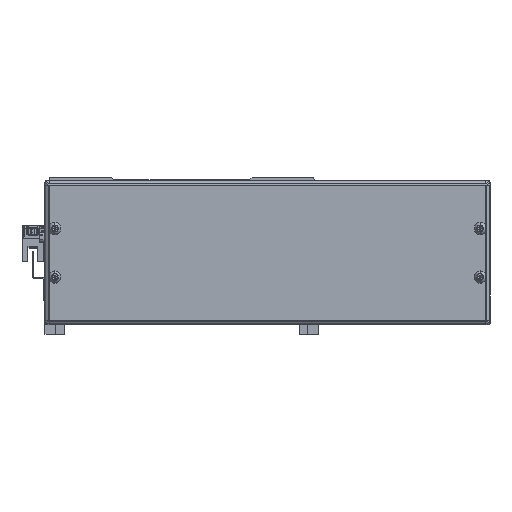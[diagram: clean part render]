
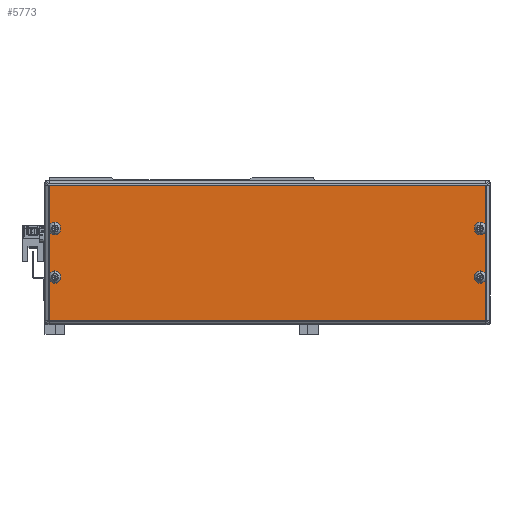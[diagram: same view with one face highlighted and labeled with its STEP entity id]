
A CAD part, front view. The second image highlights one B-rep face of the part: STEP entity #5773.
In plain terms, the highlighted planar face has unit normal (0, -1, 0) as drawn and (0, 0, -1) by its records, which use the part's own axes.
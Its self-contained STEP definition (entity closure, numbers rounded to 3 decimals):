
#380 = CIRCLE ( 'NONE', #33906, 2.25 ) ;
#1739 = VERTEX_POINT ( 'NONE', #7139 ) ;
#1765 = CARTESIAN_POINT ( 'NONE',  ( -89.983, 0.706, -242.5 ) ) ;
#1961 = LINE ( 'NONE', #22058, #12394 ) ;
#2111 = VERTEX_POINT ( 'NONE', #39153 ) ;
#2349 = CARTESIAN_POINT ( 'NONE',  ( -87.733, 0.706, -242.5 ) ) ;
#2562 = CARTESIAN_POINT ( 'NONE',  ( 152.617, 5.246, -242.5 ) ) ;
#2741 = DIRECTION ( 'NONE',  ( 0., 0., -1. ) ) ;
#3153 = ORIENTED_EDGE ( 'NONE', *, *, #8182, .F. ) ;
#3366 = DIRECTION ( 'NONE',  ( 0., 0., -1. ) ) ;
#3395 = VERTEX_POINT ( 'NONE', #26047 ) ;
#3659 = AXIS2_PLACEMENT_3D ( 'NONE', #2349, #36245, #32802 ) ;
#3963 = DIRECTION ( 'NONE',  ( -1., 0., 0. ) ) ;
#4066 = ORIENTED_EDGE ( 'NONE', *, *, #9229, .F. ) ;
#4409 = CIRCLE ( 'NONE', #28629, 2.25 ) ;
#4698 = EDGE_CURVE ( 'NONE', #33329, #24608, #27223, .T. ) ;
#4957 = EDGE_CURVE ( 'NONE', #16216, #23006, #27679, .T. ) ;
#5157 = DIRECTION ( 'NONE',  ( -1., 0., 0. ) ) ;
#5355 = CIRCLE ( 'NONE', #38244, 2.25 ) ;
#5549 = CARTESIAN_POINT ( 'NONE',  ( 175.267, 0.706, -242.5 ) ) ;
#5744 = DIRECTION ( 'NONE',  ( -1., 0., 0. ) ) ;
#5773 = ADVANCED_FACE ( 'NONE', ( #9209, #32381, #37565, #27169, #28099 ), #26505, .T. ) ;
#6781 = EDGE_CURVE ( 'NONE', #1739, #31618, #28068, .T. ) ;
#6937 = EDGE_CURVE ( 'NONE', #34937, #38584, #5355, .T. ) ;
#6955 = ORIENTED_EDGE ( 'NONE', *, *, #6781, .T. ) ;
#7139 = CARTESIAN_POINT ( 'NONE',  ( 178.531, 57.469, -242.5 ) ) ;
#7472 = ORIENTED_EDGE ( 'NONE', *, *, #27304, .F. ) ;
#7875 = EDGE_CURVE ( 'NONE', #31618, #33329, #1961, .T. ) ;
#8081 = ORIENTED_EDGE ( 'NONE', *, *, #7875, .T. ) ;
#8182 = EDGE_CURVE ( 'NONE', #3395, #8678, #28401, .T. ) ;
#8678 = VERTEX_POINT ( 'NONE', #38104 ) ;
#9209 = FACE_BOUND ( 'NONE', #24674, .T. ) ;
#9229 = EDGE_CURVE ( 'NONE', #2111, #38886, #13200, .T. ) ;
#10418 = AXIS2_PLACEMENT_3D ( 'NONE', #17834, #26914, #20751 ) ;
#10484 = EDGE_LOOP ( 'NONE', ( #14543, #14142 ) ) ;
#11390 = DIRECTION ( 'NONE',  ( -1., 0., 0. ) ) ;
#11777 = CARTESIAN_POINT ( 'NONE',  ( 175.267, 30.706, -242.5 ) ) ;
#12394 = VECTOR ( 'NONE', #15857, 1000. ) ;
#12528 = CIRCLE ( 'NONE', #13859, 2.25 ) ;
#13200 = CIRCLE ( 'NONE', #10418, 2.25 ) ;
#13611 = DIRECTION ( 'NONE',  ( 0., 0., -1. ) ) ;
#13825 = CARTESIAN_POINT ( 'NONE',  ( -91.026, 57.469, -242.5 ) ) ;
#13859 = AXIS2_PLACEMENT_3D ( 'NONE', #32795, #2741, #26693 ) ;
#13897 = VECTOR ( 'NONE', #34265, 1000. ) ;
#13912 = EDGE_LOOP ( 'NONE', ( #36620, #3153 ) ) ;
#14142 = ORIENTED_EDGE ( 'NONE', *, *, #29862, .F. ) ;
#14543 = ORIENTED_EDGE ( 'NONE', *, *, #6937, .F. ) ;
#14767 = DIRECTION ( 'NONE',  ( 0., 0., -1. ) ) ;
#15759 = CARTESIAN_POINT ( 'NONE',  ( -87.733, 30.706, -242.5 ) ) ;
#15857 = DIRECTION ( 'NONE',  ( -1., 0., 0. ) ) ;
#15886 = CARTESIAN_POINT ( 'NONE',  ( -90.996, -26.058, -242.5 ) ) ;
#16216 = VERTEX_POINT ( 'NONE', #38416 ) ;
#16407 = DIRECTION ( 'NONE',  ( -1., 0., 0. ) ) ;
#16485 = DIRECTION ( 'NONE',  ( 0., 1., 0. ) ) ;
#17834 = CARTESIAN_POINT ( 'NONE',  ( -87.733, 0.706, -242.5 ) ) ;
#19167 = AXIS2_PLACEMENT_3D ( 'NONE', #2562, #14767, #5744 ) ;
#20751 = DIRECTION ( 'NONE',  ( -1., 0., 0. ) ) ;
#20918 = DIRECTION ( 'NONE',  ( 0., 0., -1. ) ) ;
#21034 = CARTESIAN_POINT ( 'NONE',  ( 177.517, 30.706, -242.5 ) ) ;
#21115 = EDGE_CURVE ( 'NONE', #23006, #16216, #4409, .T. ) ;
#21123 = CARTESIAN_POINT ( 'NONE',  ( -87.733, 30.706, -242.5 ) ) ;
#22058 = CARTESIAN_POINT ( 'NONE',  ( 178.56, -26.058, -242.5 ) ) ;
#22606 = CARTESIAN_POINT ( 'NONE',  ( 178.531, 57.499, -242.5 ) ) ;
#23006 = VERTEX_POINT ( 'NONE', #31361 ) ;
#23300 = CIRCLE ( 'NONE', #3659, 2.25 ) ;
#24140 = CARTESIAN_POINT ( 'NONE',  ( 178.531, -26.058, -242.5 ) ) ;
#24608 = VERTEX_POINT ( 'NONE', #25362 ) ;
#24674 = EDGE_LOOP ( 'NONE', ( #7472, #4066 ) ) ;
#25231 = DIRECTION ( 'NONE',  ( 0., 0., -1. ) ) ;
#25362 = CARTESIAN_POINT ( 'NONE',  ( -90.996, 57.469, -242.5 ) ) ;
#25435 = EDGE_CURVE ( 'NONE', #24608, #1739, #30499, .T. ) ;
#26047 = CARTESIAN_POINT ( 'NONE',  ( 177.517, 0.706, -242.5 ) ) ;
#26505 = PLANE ( 'NONE',  #19167 ) ;
#26658 = ORIENTED_EDGE ( 'NONE', *, *, #4957, .F. ) ;
#26693 = DIRECTION ( 'NONE',  ( -1., 0., 0. ) ) ;
#26914 = DIRECTION ( 'NONE',  ( 0., 0., -1. ) ) ;
#26965 = CARTESIAN_POINT ( 'NONE',  ( -90.996, -26.087, -242.5 ) ) ;
#27169 = FACE_BOUND ( 'NONE', #13912, .T. ) ;
#27180 = DIRECTION ( 'NONE',  ( -1., 0., 0. ) ) ;
#27223 = LINE ( 'NONE', #26965, #35284 ) ;
#27304 = EDGE_CURVE ( 'NONE', #38886, #2111, #23300, .T. ) ;
#27679 = CIRCLE ( 'NONE', #30263, 2.25 ) ;
#28068 = LINE ( 'NONE', #22606, #13897 ) ;
#28099 = FACE_OUTER_BOUND ( 'NONE', #33289, .T. ) ;
#28354 = AXIS2_PLACEMENT_3D ( 'NONE', #5549, #29635, #5157 ) ;
#28401 = CIRCLE ( 'NONE', #28354, 2.25 ) ;
#28502 = ORIENTED_EDGE ( 'NONE', *, *, #21115, .F. ) ;
#28629 = AXIS2_PLACEMENT_3D ( 'NONE', #15759, #25231, #3963 ) ;
#29635 = DIRECTION ( 'NONE',  ( 0., 0., -1. ) ) ;
#29862 = EDGE_CURVE ( 'NONE', #38584, #34937, #380, .T. ) ;
#30263 = AXIS2_PLACEMENT_3D ( 'NONE', #21123, #3366, #27180 ) ;
#30499 = LINE ( 'NONE', #13825, #39021 ) ;
#31316 = CARTESIAN_POINT ( 'NONE',  ( 175.267, 30.706, -242.5 ) ) ;
#31361 = CARTESIAN_POINT ( 'NONE',  ( -89.983, 30.706, -242.5 ) ) ;
#31618 = VERTEX_POINT ( 'NONE', #24140 ) ;
#32381 = FACE_BOUND ( 'NONE', #34350, .T. ) ;
#32795 = CARTESIAN_POINT ( 'NONE',  ( 175.267, 0.706, -242.5 ) ) ;
#32802 = DIRECTION ( 'NONE',  ( -1., 0., 0. ) ) ;
#32852 = ORIENTED_EDGE ( 'NONE', *, *, #4698, .T. ) ;
#33289 = EDGE_LOOP ( 'NONE', ( #8081, #32852, #37281, #6955 ) ) ;
#33329 = VERTEX_POINT ( 'NONE', #15886 ) ;
#33906 = AXIS2_PLACEMENT_3D ( 'NONE', #31316, #13611, #16407 ) ;
#34265 = DIRECTION ( 'NONE',  ( 0., -1., 0. ) ) ;
#34350 = EDGE_LOOP ( 'NONE', ( #28502, #26658 ) ) ;
#34937 = VERTEX_POINT ( 'NONE', #36396 ) ;
#35284 = VECTOR ( 'NONE', #16485, 1000. ) ;
#36245 = DIRECTION ( 'NONE',  ( 0., 0., -1. ) ) ;
#36396 = CARTESIAN_POINT ( 'NONE',  ( 173.017, 30.706, -242.5 ) ) ;
#36620 = ORIENTED_EDGE ( 'NONE', *, *, #38543, .F. ) ;
#37281 = ORIENTED_EDGE ( 'NONE', *, *, #25435, .T. ) ;
#37565 = FACE_BOUND ( 'NONE', #10484, .T. ) ;
#38104 = CARTESIAN_POINT ( 'NONE',  ( 173.017, 0.706, -242.5 ) ) ;
#38165 = DIRECTION ( 'NONE',  ( 1., 0., 0. ) ) ;
#38244 = AXIS2_PLACEMENT_3D ( 'NONE', #11777, #20918, #11390 ) ;
#38416 = CARTESIAN_POINT ( 'NONE',  ( -85.483, 30.706, -242.5 ) ) ;
#38543 = EDGE_CURVE ( 'NONE', #8678, #3395, #12528, .T. ) ;
#38584 = VERTEX_POINT ( 'NONE', #21034 ) ;
#38886 = VERTEX_POINT ( 'NONE', #1765 ) ;
#39021 = VECTOR ( 'NONE', #38165, 1000. ) ;
#39153 = CARTESIAN_POINT ( 'NONE',  ( -85.483, 0.706, -242.5 ) ) ;
